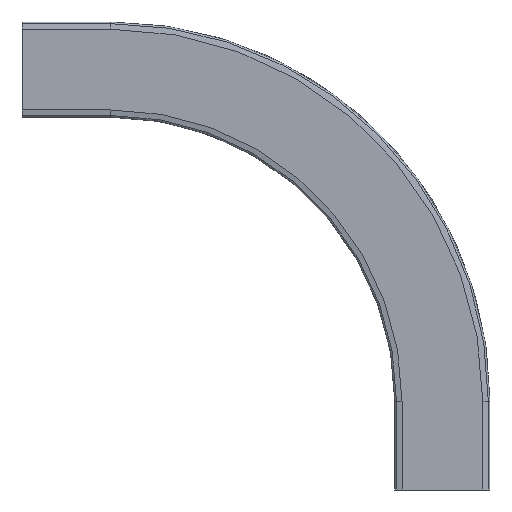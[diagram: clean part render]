
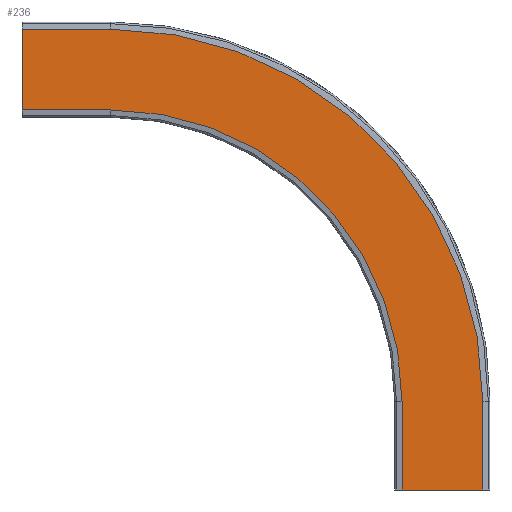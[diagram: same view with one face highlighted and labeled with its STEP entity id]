
A CAD part, front view. The second image highlights one B-rep face of the part: STEP entity #236.
In plain terms, the highlighted planar face has unit normal (0, -1, 0).
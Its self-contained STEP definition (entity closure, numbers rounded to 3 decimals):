
#75=CARTESIAN_POINT('',(-380.,-11.,416.5));
#76=VERTEX_POINT('',#75);
#107=CARTESIAN_POINT('',(-380.,-11.,343.5));
#108=VERTEX_POINT('',#107);
#115=CARTESIAN_POINT('',(-380.,-11.,416.5));
#116=DIRECTION('',(0.0,0.0,-1.0));
#117=VECTOR('',#116,73.);
#118=LINE('',#115,#117);
#119=EDGE_CURVE('',#76,#108,#118,.T.);
#161=CARTESIAN_POINT('',(-300.,-11.,416.5));
#162=VERTEX_POINT('',#161);
#163=CARTESIAN_POINT('',(-300.0,-11.,416.5));
#164=DIRECTION('',(-1.0,0.0,0.0));
#165=VECTOR('',#164,80.);
#166=LINE('',#163,#165);
#167=EDGE_CURVE('',#162,#76,#166,.T.);
#179=CARTESIAN_POINT('',(251.239,-11.,416.5));
#180=DIRECTION('',(0.0,-1.0,0.0));
#181=DIRECTION('',(1.0,0.0,0.0));
#182=AXIS2_PLACEMENT_3D('',#179,#180,#181);
#183=PLANE('',#182);
#184=ORIENTED_EDGE('',*,*,#119,.T.);
#185=CARTESIAN_POINT('',(-300.,-11.,343.5));
#186=VERTEX_POINT('',#185);
#187=CARTESIAN_POINT('',(-300.0,-11.,343.5));
#188=DIRECTION('',(-1.0,0.0,0.0));
#189=VECTOR('',#188,80.);
#190=LINE('',#187,#189);
#191=EDGE_CURVE('',#186,#108,#190,.T.);
#192=ORIENTED_EDGE('',*,*,#191,.F.);
#193=CARTESIAN_POINT('',(-36.5,-11.,80.0));
#194=VERTEX_POINT('',#193);
#195=CARTESIAN_POINT('',(-300.0,-11.,80.0));
#196=DIRECTION('',(0.0,-1.0,0.0));
#197=DIRECTION('',(1.0,0.0,0.0));
#198=AXIS2_PLACEMENT_3D('',#195,#196,#197);
#199=CIRCLE('',#198,263.5);
#200=EDGE_CURVE('',#194,#186,#199,.T.);
#201=ORIENTED_EDGE('',*,*,#200,.F.);
#202=CARTESIAN_POINT('',(-36.5,-11.,0.0));
#203=VERTEX_POINT('',#202);
#204=CARTESIAN_POINT('',(-36.5,-11.,0.0));
#205=DIRECTION('',(0.0,0.0,1.0));
#206=VECTOR('',#205,80.0);
#207=LINE('',#204,#206);
#208=EDGE_CURVE('',#203,#194,#207,.T.);
#209=ORIENTED_EDGE('',*,*,#208,.F.);
#210=CARTESIAN_POINT('',(36.5,-11.,0.0));
#211=VERTEX_POINT('',#210);
#212=CARTESIAN_POINT('',(-36.5,-11.,0.0));
#213=DIRECTION('',(1.0,0.0,0.0));
#214=VECTOR('',#213,73.);
#215=LINE('',#212,#214);
#216=EDGE_CURVE('',#203,#211,#215,.T.);
#217=ORIENTED_EDGE('',*,*,#216,.T.);
#218=CARTESIAN_POINT('',(36.5,-11.,80.0));
#219=VERTEX_POINT('',#218);
#220=CARTESIAN_POINT('',(36.5,-11.,0.0));
#221=DIRECTION('',(0.0,0.0,1.0));
#222=VECTOR('',#221,80.0);
#223=LINE('',#220,#222);
#224=EDGE_CURVE('',#211,#219,#223,.T.);
#225=ORIENTED_EDGE('',*,*,#224,.T.);
#226=CARTESIAN_POINT('',(-300.0,-11.,80.0));
#227=DIRECTION('',(0.0,-1.0,0.0));
#228=DIRECTION('',(1.0,0.0,0.0));
#229=AXIS2_PLACEMENT_3D('',#226,#227,#228);
#230=CIRCLE('',#229,336.5);
#231=EDGE_CURVE('',#219,#162,#230,.T.);
#232=ORIENTED_EDGE('',*,*,#231,.T.);
#233=ORIENTED_EDGE('',*,*,#167,.T.);
#234=EDGE_LOOP('',(#184,#192,#201,#209,#217,#225,#232,#233));
#235=FACE_OUTER_BOUND('',#234,.T.);
#236=ADVANCED_FACE('',(#235),#183,.T.);
